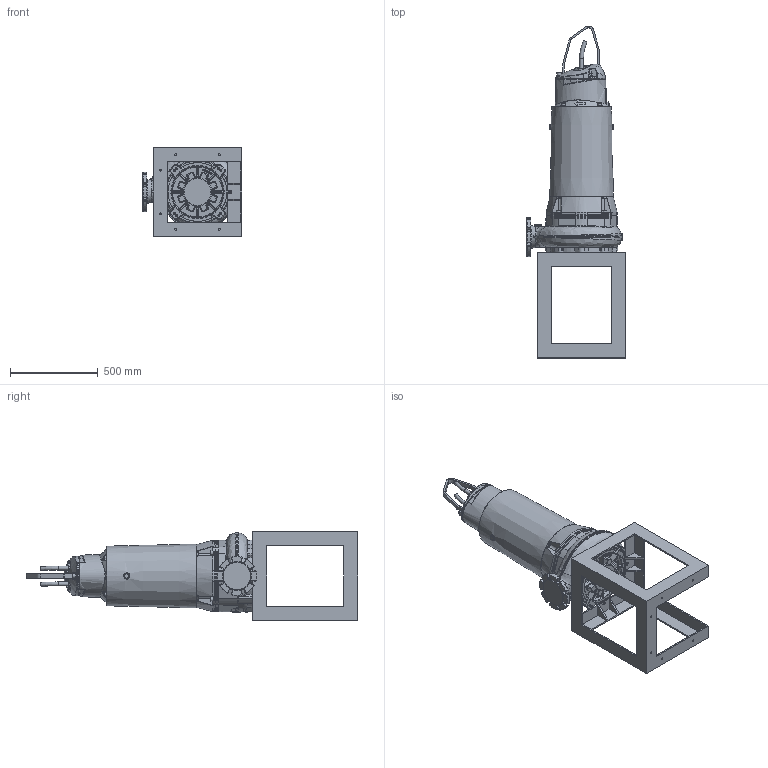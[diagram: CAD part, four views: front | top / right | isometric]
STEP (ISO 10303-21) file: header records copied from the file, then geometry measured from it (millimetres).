
FILE_DESCRIPTION (( 'STEP AP203' ), '1' );
FILE_NAME ('XFP100G-CB1_PE3A_Dry_Vertical.STEP', '2023-02-28T12:23:44', ( '' ), ( '' ), 'SwSTEP 2.0', 'SolidWorks 2017', '' );
FILE_SCHEMA (( 'CONFIG_CONTROL_DESIGN' ));
Products named in the file (2): XFP100G-CB1_PE3A_Dry_Vertical
Bounding box: 567 x 1892.2 x 504 mm (x, y, z)
Volume: 111386812.1 mm3; surface area: 3461481.6 mm2
Topology: 8 solids, 32 shells, 3303 faces, 7795 edges, 4462 vertices
Faces by surface type: bspline 1046, cylinder 928, plane 717, torus 407, cone 153, sphere 52
Full cylindrical faces by diameter (mm): 6.8 x2, 8 x7, 8.5 x4, 9 x6, 10 x14, 10.2 x4, 11 x10, 12 x8, 13 x13, 14 x8, 15 x5, 16 x20, 17 x2, 18 x18, 22 x2, 24 x6, 26 x6, 40 x1, 158 x1, 335 x1
Entity records: 142983 total; most frequent: CARTESIAN_POINT 77857, ORIENTED_EDGE 14538, DIRECTION 11857, EDGE_CURVE 7269, AXIS2_PLACEMENT_3D 4796, VERTEX_POINT 4355, EDGE_LOOP 3692, FACE_OUTER_BOUND 3501
